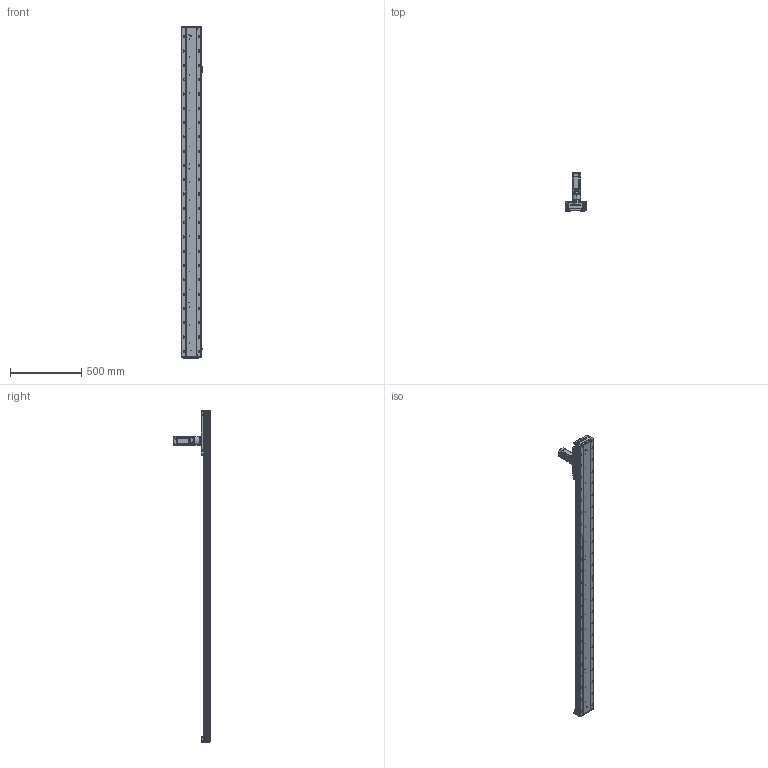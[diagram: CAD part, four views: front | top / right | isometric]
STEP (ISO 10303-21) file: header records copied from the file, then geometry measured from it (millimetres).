
FILE_DESCRIPTION (( 'STEP AP203' ), '1' );
FILE_NAME ('RY140-C-250-UK.SLDASM_1950.step', '2022-03-12T01:59:41', ( '' ), ( '' ), 'SwSTEP 2.0', 'SolidWorks 2016', '' );
FILE_SCHEMA (( 'CONFIG_CONTROL_DESIGN' ));
Length unit declared in the file: millimetre
Products named in the file (12): 絳寢賑輸EGH15; 15; RY140-300齿条模组型材底座_1950; 140蚥薯蝶輸; 覜茼ん672; RY140-喘謫萇儂覃誹啣; 60ZDF珨撰俋倛芞T1 200W M4; RY120外置感应片(140共用）; RY140-絳寢EGH15-300-MK_1950; RY140-喘沭裔啣; RY140-喘沭賑輸; RY140-C-250-UK.SLDASM_1950
Assembly tree (21 placements, depth 2):
  RY140-C-250-UK.SLDASM_1950
    RY140-300齿条模组型材底座_1950
    RY140-絳寢EGH15-300-MK_1950  x2
    絳寢賑輸EGH15  x6
    RY140-喘沭裔啣  x2
    覜茼ん672  x3
    RY140-喘沭賑輸
    RY120外置感应片(140共用）
    RY140-喘謫萇儂覃誹啣
    140蚥薯蝶輸  x2
    60ZDF珨撰俋倛芞T1 200W M4
    15
Bounding box: 153.7 x 263.5 x 2322 mm (x, y, z)
Volume: 7362614.8 mm3; surface area: 2012839.9 mm2
Topology: 21 solids, 21 shells, 3928 faces, 10560 edges, 6810 vertices
Faces by surface type: cylinder 1884, plane 1698, cone 300, bspline 46
Entity records: 91861 total; most frequent: CARTESIAN_POINT 20721, ORIENTED_EDGE 14566, DIRECTION 14485, EDGE_CURVE 7283, AXIS2_PLACEMENT_3D 5255, VERTEX_POINT 4771, VECTOR 3975, LINE 3975
